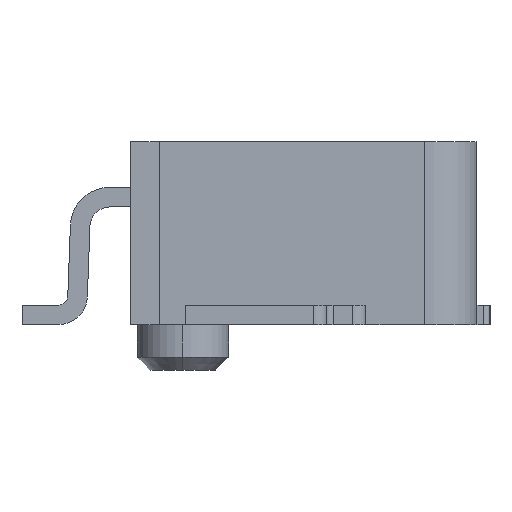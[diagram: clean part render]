
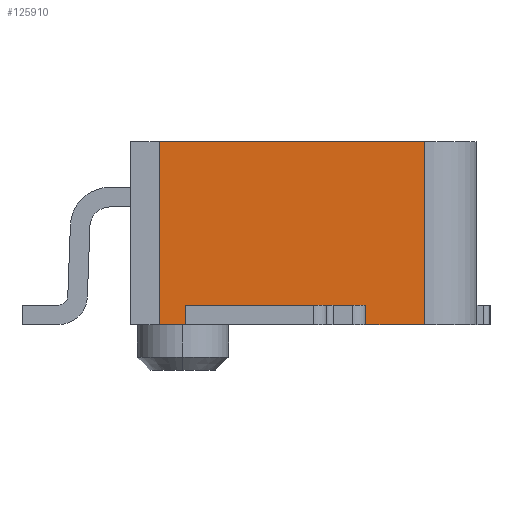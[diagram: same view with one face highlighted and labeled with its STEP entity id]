
A CAD part, left-side view. The second image highlights one B-rep face of the part: STEP entity #125910.
In plain terms, the highlighted planar face has unit normal (-1, 0, 0) as drawn and (1, 0, 0) by its records, which use the part's own axes.
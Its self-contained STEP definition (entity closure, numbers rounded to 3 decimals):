
#2060=CARTESIAN_POINT('',(243.919,-50.316,0.15));
#2070=VERTEX_POINT('',#2060);
#2100=CARTESIAN_POINT('',(243.919,-50.316,0.15));
#2110=DIRECTION('',(0.,1.,0.));
#2120=VECTOR('',#2110,1.);
#2130=LINE('',#2100,#2120);
#2140=CARTESIAN_POINT('',(243.919,-48.936,0.15));
#2150=VERTEX_POINT('',#2140);
#2160=EDGE_CURVE('',#2070,#2150,#2130,.T.);
#41940=CARTESIAN_POINT('',(243.919,-50.316,0.));
#41950=DIRECTION('',(0.,0.,1.));
#41960=VECTOR('',#41950,1.);
#41970=LINE('',#41940,#41960);
#41980=CARTESIAN_POINT('',(243.919,-50.316,
0.));
#41990=VERTEX_POINT('',#41980);
#42000=EDGE_CURVE('',#41990,#2070,#41970,.T.);
#122940=CARTESIAN_POINT('',(243.919,-48.486,1.4));
#122950=DIRECTION('',(0.,0.,-1.));
#122960=VECTOR('',#122950,1.);
#122970=LINE('',#122940,#122960);
#122980=CARTESIAN_POINT('',(243.919,-48.486,1.4));
#122990=VERTEX_POINT('',#122980);
#123000=CARTESIAN_POINT('',(243.919,-48.486,
0.));
#123010=VERTEX_POINT('',#123000);
#123020=EDGE_CURVE('',#122990,#123010,#122970,.T.);
#125030=CARTESIAN_POINT('',(243.919,-50.516,1.4));
#125040=DIRECTION('',(0.,1.,0.));
#125050=VECTOR('',#125040,1.);
#125060=LINE('',#125030,#125050);
#125070=CARTESIAN_POINT('',(243.919,-50.516,1.4));
#125080=VERTEX_POINT('',#125070);
#125090=EDGE_CURVE('',#125080,#122990,#125060,.T.);
#125520=CARTESIAN_POINT('',(243.919,-48.483,1.403));
#125530=DIRECTION('',(1.,0.,0.));
#125540=DIRECTION('',(0.,-1.,0.));
#125550=AXIS2_PLACEMENT_3D('',#125520,#125530,#125540);
#125560=PLANE('',#125550);
#125570=CARTESIAN_POINT('',(243.919,-50.516,0.));
#125580=DIRECTION('',(0.,0.,1.));
#125590=VECTOR('',#125580,1.);
#125600=LINE('',#125570,#125590);
#125610=CARTESIAN_POINT('',(243.919,-50.516,
0.));
#125620=VERTEX_POINT('',#125610);
#125630=EDGE_CURVE('',#125620,#125080,#125600,.T.);
#125640=ORIENTED_EDGE('',*,*,#125630,.F.);
#125650=ORIENTED_EDGE('',*,*,#125090,.F.);
#125660=ORIENTED_EDGE('',*,*,#123020,.F.);
#125670=CARTESIAN_POINT('',(243.919,-48.486,0.));
#125680=DIRECTION('',(0.,-1.,0.));
#125690=VECTOR('',#125680,1.);
#125700=LINE('',#125670,#125690);
#125710=CARTESIAN_POINT('',(243.919,-48.936,
0.));
#125720=VERTEX_POINT('',#125710);
#125730=EDGE_CURVE('',#123010,#125720,#125700,.T.);
#125740=ORIENTED_EDGE('',*,*,#125730,.F.);
#125750=CARTESIAN_POINT('',(243.919,-48.936,0.15));
#125760=DIRECTION('',(0.,0.,-1.));
#125770=VECTOR('',#125760,1.);
#125780=LINE('',#125750,#125770);
#125790=EDGE_CURVE('',#2150,#125720,#125780,.T.);
#125800=ORIENTED_EDGE('',*,*,#125790,.T.);
#125810=ORIENTED_EDGE('',*,*,#2160,.T.);
#125820=ORIENTED_EDGE('',*,*,#42000,.T.);
#125830=CARTESIAN_POINT('',(243.919,-50.316,0.));
#125840=DIRECTION('',(0.,-1.,0.));
#125850=VECTOR('',#125840,1.);
#125860=LINE('',#125830,#125850);
#125870=EDGE_CURVE('',#41990,#125620,#125860,.T.);
#125880=ORIENTED_EDGE('',*,*,#125870,.F.);
#125890=EDGE_LOOP('',(#125880,#125820,#125810,#125800,#125740,#125660,
#125650,#125640));
#125900=FACE_OUTER_BOUND('',#125890,.T.);
#125910=ADVANCED_FACE('',(#125900),#125560,.T.);
